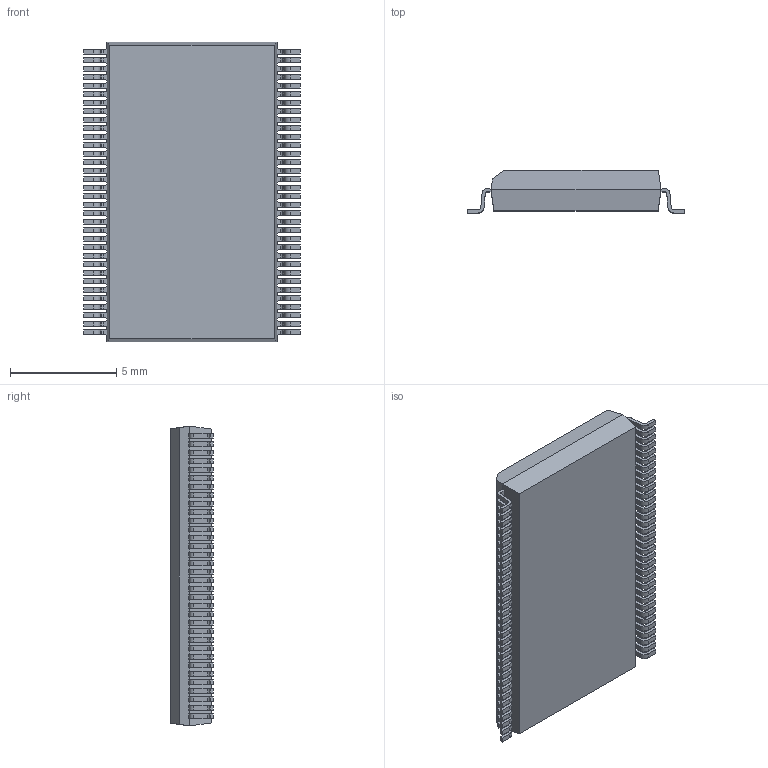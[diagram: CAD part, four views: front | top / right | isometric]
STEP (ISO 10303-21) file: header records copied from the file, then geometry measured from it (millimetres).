
FILE_DESCRIPTION (( 'STEP AP214' ), '1' );
FILE_NAME ('SSOP40P1000X200-68_MO-152.JD-1.STEP', '2014-10-30T11:23:47', ( 'Tester2' ), ( '' ), 'SwSTEP 2.0', 'SolidWorks 2012', '' );
FILE_SCHEMA (( 'AUTOMOTIVE_DESIGN' ));
Length unit declared in the file: millimetre
Products named in the file (1): SSOP40P1000X200-68_MO-152.JD-1
Bounding box: 10.2 x 2 x 14.1 mm (x, y, z)
Volume: 211.9 mm3; surface area: 392.1 mm2
Topology: 1 solids, 1 shells, 898 faces, 2681 edges, 1786 vertices
Faces by surface type: plane 624, cylinder 274
Entity records: 39872 total; most frequent: CARTESIAN_POINT 5366, ORIENTED_EDGE 5362, DIRECTION 5027, EDGE_CURVE 2681, VECTOR 2133, LINE 2133, VERTEX_POINT 1786, AXIS2_PLACEMENT_3D 1447
